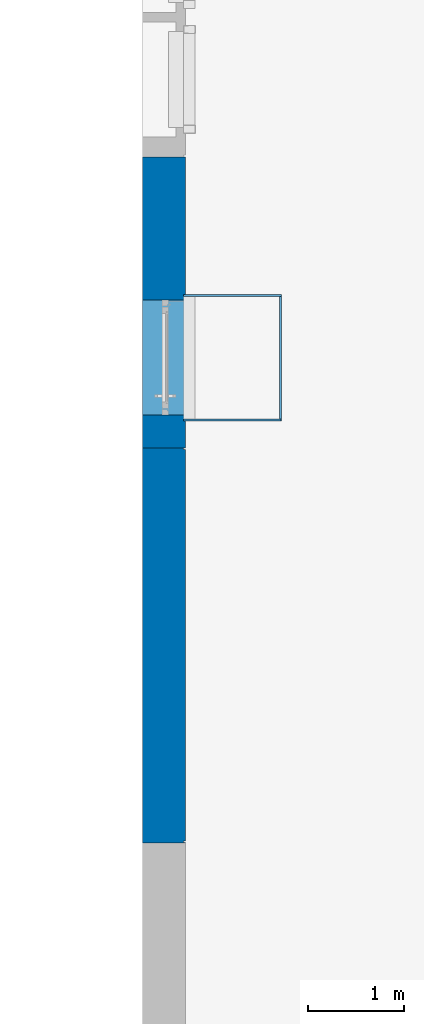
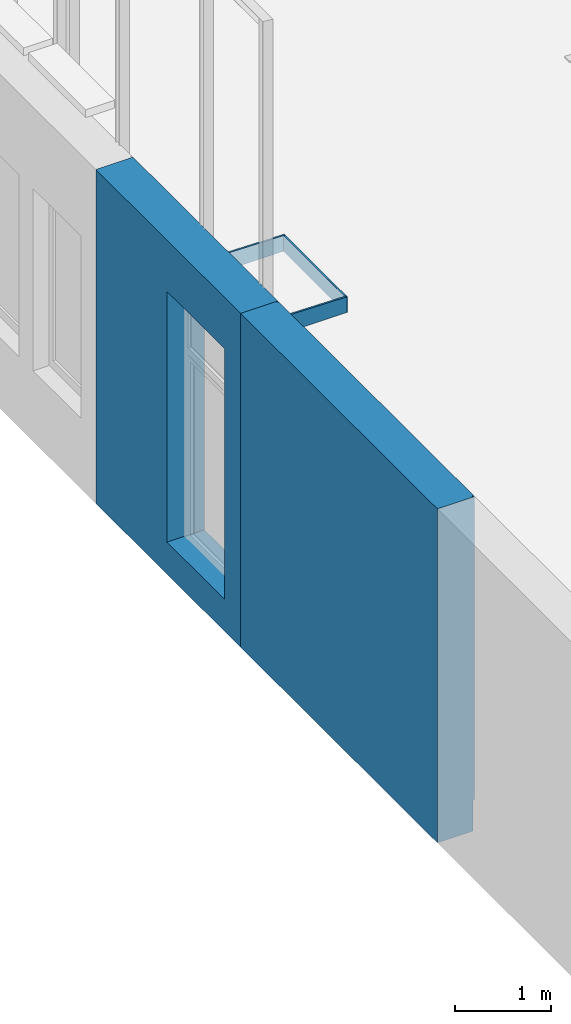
# One storey, part 31 of 77: 5 walls, 5 openings.
"""IFC2X3 building model written with IfcOpenShell, lengths in millimetres."""

from ifc_helpers import new_model, entity, si_unit, converted_unit, derived_unit, direction, frame, frame_2d, origin, origin_2d_with_axis, place, context, subcontext, project, spatial, rectangle, extrude, clip, halfspace, faceted_brep, material, layer, layer_set, layer_usage, type_object, element, save


model = new_model("IFC2X3")

# Units and contexts
model_context = context("Model", 3, precision=0.01, world=origin(), true_north=direction((6.12303176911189e-17, 1.0)))
body_context = subcontext(model_context, "Body", "Model", "MODEL_VIEW")
ifc_project = project(units=[si_unit("LENGTHUNIT", "METRE", prefix="MILLI"), si_unit("AREAUNIT", "SQUARE_METRE"), si_unit("VOLUMEUNIT", "CUBIC_METRE"), converted_unit("PLANEANGLEUNIT", "DEGREE", entity("IfcRatioMeasure", 0.0174532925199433), si_unit("PLANEANGLEUNIT", "RADIAN"), dimensions=[0, 0, 0, 0, 0, 0, 0]), si_unit("MASSUNIT", "GRAM", prefix="KILO"), derived_unit("MASSDENSITYUNIT", [(si_unit("MASSUNIT", "GRAM", prefix="KILO"), 1), (si_unit("LENGTHUNIT", "METRE"), -3)]), si_unit("TIMEUNIT", "SECOND"), si_unit("FREQUENCYUNIT", "HERTZ"), si_unit("THERMODYNAMICTEMPERATUREUNIT", "DEGREE_CELSIUS"), derived_unit("THERMALTRANSMITTANCEUNIT", [(si_unit("MASSUNIT", "GRAM", prefix="KILO"), 1), (si_unit("THERMODYNAMICTEMPERATUREUNIT", "KELVIN"), -1), (si_unit("TIMEUNIT", "SECOND"), -3)]), derived_unit("VOLUMETRICFLOWRATEUNIT", [(si_unit("LENGTHUNIT", "METRE"), 3), (si_unit("TIMEUNIT", "SECOND"), -1)]), si_unit("ELECTRICCURRENTUNIT", "AMPERE"), si_unit("ELECTRICVOLTAGEUNIT", "VOLT"), si_unit("POWERUNIT", "WATT"), si_unit("FORCEUNIT", "NEWTON", prefix="KILO"), si_unit("ILLUMINANCEUNIT", "LUX"), si_unit("LUMINOUSFLUXUNIT", "LUMEN"), si_unit("LUMINOUSINTENSITYUNIT", "CANDELA"), derived_unit("USERDEFINED", [(si_unit("MASSUNIT", "GRAM", prefix="KILO"), -1), (si_unit("LENGTHUNIT", "METRE"), -2), (si_unit("TIMEUNIT", "SECOND"), 3), (si_unit("LUMINOUSFLUXUNIT", "LUMEN"), 1)]), derived_unit("LINEARVELOCITYUNIT", [(si_unit("LENGTHUNIT", "METRE"), 1), (si_unit("TIMEUNIT", "SECOND"), -1)]), si_unit("PRESSUREUNIT", "PASCAL"), derived_unit("USERDEFINED", [(si_unit("LENGTHUNIT", "METRE"), -2), (si_unit("MASSUNIT", "GRAM", prefix="KILO"), 1), (si_unit("TIMEUNIT", "SECOND"), -2)])], contexts=[model_context])

# Site, building, storey
site_placement = place(None, origin())
site = spatial("IfcSite", under=ifc_project, at=site_placement, Name="Default", CompositionType="ELEMENT")
building_placement = place(site_placement, origin())
building = spatial("IfcBuilding", under=site, at=building_placement, CompositionType="ELEMENT")
storey_placement = place(building_placement, origin())
storey = spatial("IfcBuildingStorey", under=building, at=storey_placement, Name="1. KORRUS", CompositionType="ELEMENT", Elevation=0.0)

# Wall, openings
ifc_material_1 = material(Name="RECKLI 1 173 THUR by Polantis 2016-toon2")
ifc_layer_1 = layer(ifc_material_1, 100.0)
ifc_material_2 = material(Name="Soojusisolatsioon EPS")
ifc_layer_2 = layer(ifc_material_2, 200.0)
ifc_material_3 = material(Name="r/b")
ifc_layer_3 = layer(ifc_material_3, 150.0)
ifc_layer_set_1 = layer_set([ifc_layer_1, ifc_layer_2, ifc_layer_3], Name="Basic Wall:VS-1_toon-c")
ifc_layer_usage_1 = layer_usage(ifc_layer_set_1, "AXIS2", "NEGATIVE", 225.0)
wall_type_1 = type_object("IfcWallType", Name="Basic Wall:VS-1_toon-c", PredefinedType="STANDARD", material=ifc_layer_set_1)
wall_1_placement = place(storey_placement, frame((39725.0, 12760.0, -400.0), z_axis=(0.0, 0.0, 1.0), x_axis=(0.0, -1.0, 0.0)))
wall_1 = element("IfcWallStandardCase", 1, at=wall_1_placement, inside=storey, type_object=wall_type_1, material=ifc_layer_usage_1, Name="Basic Wall:VS-1_toon-c", ObjectType="Basic Wall:VS-1_toon-c", context=body_context, shape_type="SweptSolid", body=[
    extrude(rectangle(XDim=4116.66999999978, YDim=450.000000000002, at=frame_2d((2058.33499999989, -9.66338120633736e-13), x_axis=(-1.0, 0.0))), origin(), (0.0, 0.0, 1.0), 4265.0),
])
opening_1_placement = place(wall_1_placement, origin())
element("IfcOpeningElement", 2, at=opening_1_placement, cuts=wall_1, Name="Basic Wall:VS-1_toon-c", ObjectType="Opening", context=body_context, shape_type="Brep", body=[
    faceted_brep([(-15270.0, -40155.0, 400.0), (-15270.0, -40155.0, 0.0), (-15290.0, -40175.0, 0.0), (-15290.0, -40175.0, 400.0), (-10530.0, -40155.0, 400.0), (-10530.0, -40175.0, 400.0), (-10530.0, -40175.0, 0.0), (-10530.0, -40155.0, 0.0)], [[[0, 1, 2, 3]], [[4, 5, 6, 7]], [[1, 0, 4, 7]], [[2, 1, 7, 6]], [[3, 2, 6, 5]], [[0, 3, 5, 4]]]),
    faceted_brep([(-15270.0, -40155.0, 400.0), (-15290.0, -40175.0, 400.0), (-15290.0, -40175.0, 0.0), (-15270.0, -40155.0, 0.0), (-15270.0, -35815.0, 400.0), (-15270.0, -35815.0, 0.0), (-15290.0, -35815.0, 0.0), (-15290.0, -35815.0, 400.0)], [[[0, 1, 2, 3]], [[4, 5, 6, 7]], [[1, 0, 4, 7]], [[2, 1, 7, 6]], [[3, 2, 6, 5]], [[0, 3, 5, 4]]]),
    faceted_brep([(-15270.0, -30095.0, 400.0), (-15290.0, -30075.0, 400.0), (-15290.0, -30075.0, 0.0), (-15270.0, -30095.0, 0.0), (-9170.05178071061, -30095.0, 400.0), (-9170.05178071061, -30095.0, 0.0), (-9190.05178071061, -30075.0, 0.0), (-9190.05178071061, -30075.0, 400.0)], [[[0, 1, 2, 3]], [[4, 5, 6, 7]], [[1, 0, 4, 7]], [[2, 1, 7, 6]], [[3, 2, 6, 5]], [[0, 3, 5, 4]]]),
    faceted_brep([(-9170.0517807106, -25375.0, 400.0), (-9190.0517807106, -25375.0, 400.0), (-9190.0517807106, -25375.0, 0.0), (-9170.0517807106, -25375.0, 0.0), (-9170.0517807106, -24845.0, 400.0), (-9170.0517807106, -24845.0, 0.0), (-9190.0517807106, -24845.0, 0.0), (-9190.0517807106, -24845.0, 400.0)], [[[0, 1, 2, 3]], [[4, 5, 6, 7]], [[1, 0, 4, 7]], [[2, 1, 7, 6]], [[3, 2, 6, 5]], [[0, 3, 5, 4]]]),
    faceted_brep([(-9170.05178071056, 205.0, 400.0), (-9190.05178071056, 225.0, 400.0), (-9190.05178071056, 225.0, 0.0), (-9170.05178071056, 205.0, 0.0), (-3030.0, 205.0, 400.0), (-3030.0, 205.0, 0.0), (-3030.0, 225.0, 0.0), (-3030.0, 225.0, 400.0)], [[[0, 1, 2, 3]], [[4, 5, 6, 7]], [[1, 0, 4, 7]], [[2, 1, 7, 6]], [[3, 2, 6, 5]], [[0, 3, 5, 4]]]),
    faceted_brep([(13190.0, 205.0, 400.0), (13210.0, 225.0, 400.0), (13210.0, 225.0, 0.0), (13190.0, 205.0, 0.0), (13190.0, -4925.0, 400.0), (13190.0, -4925.0, 0.0), (13210.0, -4925.0, 0.0), (13210.0, -4925.0, 400.0)], [[[0, 1, 2, 3]], [[4, 5, 6, 7]], [[1, 0, 4, 7]], [[2, 1, 7, 6]], [[3, 2, 6, 5]], [[0, 3, 5, 4]]]),
    faceted_brep([(13190.0, -28325.0, 400.0), (13210.0, -28325.0, 400.0), (13210.0, -28325.0, 0.0), (13190.0, -28325.0, 0.0), (13190.0, -32110.0, 400.0), (13190.0, -32110.0, 0.0), (13210.0, -32110.0, 0.0), (13210.0, -32110.0, 400.0)], [[[0, 1, 2, 3]], [[4, 5, 6, 7]], [[1, 0, 4, 7]], [[2, 1, 7, 6]], [[3, 2, 6, 5]], [[0, 3, 5, 4]]]),
    faceted_brep([(2.66818460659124e-09, 205.0, 400.0), (2.66818460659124e-09, 225.0, 400.0), (2.66818460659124e-09, 225.0, 0.0), (2.66818460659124e-09, 205.0, 0.0), (4116.66999999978, 205.0, 400.0), (4116.66999999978, 205.0, 0.0), (4116.66999999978, 225.0, 0.0), (4116.66999999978, 225.0, 400.0)], [[[0, 1, 2, 3]], [[4, 5, 6, 7]], [[1, 0, 4, 7]], [[2, 1, 7, 6]], [[3, 2, 6, 5]], [[0, 3, 5, 4]]]),
    faceted_brep([(13190.0, -8525.0, 400.0), (13210.0, -8525.0, 400.0), (13210.0, -8525.0, 0.0), (13190.0, -8525.0, 0.0), (13190.0, -10925.0, 400.0), (13190.0, -10925.0, 0.0), (13210.0, -10925.0, 0.0), (13210.0, -10925.0, 400.0)], [[[0, 1, 2, 3]], [[4, 5, 6, 7]], [[1, 0, 4, 7]], [[2, 1, 7, 6]], [[3, 2, 6, 5]], [[0, 3, 5, 4]]]),
    faceted_brep([(13190.0, -35934.969176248, 400.0), (13210.0, -35934.969176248, 400.0), (13210.0, -35934.969176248, 0.0), (13190.0, -35934.969176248, 0.0), (13190.0, -38419.969176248, 400.0), (13190.0, -38419.969176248, 0.0), (13210.0, -38419.969176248, 0.0), (13210.0, -38419.969176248, 400.0)], [[[0, 1, 2, 3]], [[4, 5, 6, 7]], [[1, 0, 4, 7]], [[2, 1, 7, 6]], [[3, 2, 6, 5]], [[0, 3, 5, 4]]]),
    faceted_brep([(13190.0, -23725.0, 400.0), (13210.0, -23725.0, 400.0), (13210.0, -23725.0, 0.0), (13190.0, -23725.0, 0.0), (13190.0, -24725.0, 400.0), (13190.0, -24725.0, 0.0), (13210.0, -24725.0, 0.0), (13210.0, -24725.0, 400.0)], [[[0, 1, 2, 3]], [[4, 5, 6, 7]], [[1, 0, 4, 7]], [[2, 1, 7, 6]], [[3, 2, 6, 5]], [[0, 3, 5, 4]]]),
    faceted_brep([(13190.0, -19124.9683370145, 400.0), (13210.0, -19124.9683370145, 400.0), (13210.0, -19124.9683370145, 0.0), (13190.0, -19124.9683370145, 0.0), (13190.0, -20125.0, 400.0), (13190.0, -20125.0, 0.0), (13210.0, -20125.0, 0.0), (13210.0, -20125.0, 400.0)], [[[0, 1, 2, 3]], [[4, 5, 6, 7]], [[1, 0, 4, 7]], [[2, 1, 7, 6]], [[3, 2, 6, 5]], [[0, 3, 5, 4]]]),
    faceted_brep([(13190.0, -14524.9683370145, 400.0), (13210.0, -14524.9683370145, 400.0), (13210.0, -14524.9683370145, 0.0), (13190.0, -14524.9683370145, 0.0), (13190.0, -15525.0, 400.0), (13190.0, -15525.0, 0.0), (13210.0, -15525.0, 0.0), (13210.0, -15525.0, 400.0)], [[[0, 1, 2, 3]], [[4, 5, 6, 7]], [[1, 0, 4, 7]], [[2, 1, 7, 6]], [[3, 2, 6, 5]], [[0, 3, 5, 4]]]),
    faceted_brep([(8345.0, 205.0, 400.0), (8345.0, 225.0, 400.0), (8345.0, 225.0, 0.0), (8345.0, 205.0, 0.0), (13190.0, 205.0, 400.0), (13190.0, 205.0, 0.0), (13210.0, 225.0, 0.0), (13210.0, 225.0, 400.0)], [[[0, 1, 2, 3]], [[4, 5, 6, 7]], [[1, 0, 4, 7]], [[2, 1, 7, 6]], [[3, 2, 6, 5]], [[0, 3, 5, 4]]]),
    faceted_brep([(4116.66999999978, 205.0, 400.0), (4116.66999999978, 225.0, 400.0), (4116.66999999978, 225.0, 0.0), (4116.66999999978, 205.0, 0.0), (8345.0, 205.0, 400.0), (8345.0, 205.0, 0.0), (8345.0, 225.0, 0.0), (8345.0, 225.0, 400.0)], [[[0, 1, 2, 3]], [[4, 5, 6, 7]], [[1, 0, 4, 7]], [[2, 1, 7, 6]], [[3, 2, 6, 5]], [[0, 3, 5, 4]]]),
    faceted_brep([(-3030.0, 205.0, 400.0), (-3030.0, 225.0, 400.0), (-3030.0, 225.0, 0.0), (-3030.0, 205.0, 0.0), (2.66818460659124e-09, 205.0, 400.0), (2.66818460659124e-09, 205.0, 0.0), (2.66818460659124e-09, 225.0, 0.0), (2.66818460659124e-09, 225.0, 400.0)], [[[0, 1, 2, 3]], [[4, 5, 6, 7]], [[1, 0, 4, 7]], [[2, 1, 7, 6]], [[3, 2, 6, 5]], [[0, 3, 5, 4]]]),
    faceted_brep([(-9170.05178071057, -5754.89642978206, 400.0), (-9190.05178071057, -5754.89642978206, 400.0), (-9190.05178071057, -5754.89642978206, 0.0), (-9170.05178071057, -5754.89642978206, 0.0), (-9170.05178071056, 205.0, 400.0), (-9170.05178071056, 205.0, 0.0), (-9190.05178071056, 225.0, 0.0), (-9190.05178071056, 225.0, 400.0)], [[[0, 1, 2, 3]], [[4, 5, 6, 7]], [[1, 0, 4, 7]], [[2, 1, 7, 6]], [[3, 2, 6, 5]], [[0, 3, 5, 4]]]),
    faceted_brep([(-9170.05178071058, -11061.7838512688, 400.0), (-9190.05178071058, -11061.7838512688, 400.0), (-9190.05178071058, -11061.7838512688, 0.0), (-9170.05178071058, -11061.7838512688, 0.0), (-9170.05178071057, -5754.89642978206, 400.0), (-9170.05178071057, -5754.89642978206, 0.0), (-9190.05178071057, -5754.89642978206, 0.0), (-9190.05178071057, -5754.89642978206, 400.0)], [[[0, 1, 2, 3]], [[4, 5, 6, 7]], [[1, 0, 4, 7]], [[2, 1, 7, 6]], [[3, 2, 6, 5]], [[0, 3, 5, 4]]]),
    faceted_brep([(13190.0, -32110.0, 400.0), (13210.0, -32110.0, 400.0), (13210.0, -32110.0, 0.0), (13190.0, -32110.0, 0.0), (13190.0, -35934.969176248, 400.0), (13190.0, -35934.969176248, 0.0), (13210.0, -35934.969176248, 0.0), (13210.0, -35934.969176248, 400.0)], [[[0, 1, 2, 3]], [[4, 5, 6, 7]], [[1, 0, 4, 7]], [[2, 1, 7, 6]], [[3, 2, 6, 5]], [[0, 3, 5, 4]]]),
    faceted_brep([(-9170.05178071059, -17640.0, 400.0), (-9190.05178071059, -17640.0, 400.0), (-9190.05178071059, -17640.0, 0.0), (-9170.05178071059, -17640.0, 0.0), (-9170.05178071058, -11061.7838512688, 400.0), (-9170.05178071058, -11061.7838512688, 0.0), (-9190.05178071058, -11061.7838512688, 0.0), (-9190.05178071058, -11061.7838512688, 400.0)], [[[0, 1, 2, 3]], [[4, 5, 6, 7]], [[1, 0, 4, 7]], [[2, 1, 7, 6]], [[3, 2, 6, 5]], [[0, 3, 5, 4]]]),
    faceted_brep([(-9170.0517807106, -21471.6471089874, 400.0), (-9190.0517807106, -21471.6471089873, 400.0), (-9190.0517807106, -21471.6471089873, 0.0), (-9170.0517807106, -21471.6471089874, 0.0), (-9170.05178071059, -17640.0, 400.0), (-9170.05178071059, -17640.0, 0.0), (-9190.05178071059, -17640.0, 0.0), (-9190.05178071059, -17640.0, 400.0)], [[[0, 1, 2, 3]], [[4, 5, 6, 7]], [[1, 0, 4, 7]], [[2, 1, 7, 6]], [[3, 2, 6, 5]], [[0, 3, 5, 4]]]),
    faceted_brep([(-9170.0517807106, -24845.0, 400.0), (-9190.0517807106, -24845.0, 400.0), (-9190.0517807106, -24845.0, 0.0), (-9170.0517807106, -24845.0, 0.0), (-9170.0517807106, -21471.6471089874, 400.0), (-9170.0517807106, -21471.6471089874, 0.0), (-9190.0517807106, -21471.6471089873, 0.0), (-9190.0517807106, -21471.6471089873, 400.0)], [[[0, 1, 2, 3]], [[4, 5, 6, 7]], [[1, 0, 4, 7]], [[2, 1, 7, 6]], [[3, 2, 6, 5]], [[0, 3, 5, 4]]]),
    faceted_brep([(-15270.0, -35815.0, 400.0), (-15290.0, -35815.0, 400.0), (-15290.0, -35815.0, 0.0), (-15270.0, -35815.0, 0.0), (-15270.0, -30095.0, 400.0), (-15270.0, -30095.0, 0.0), (-15290.0, -30075.0, 0.0), (-15290.0, -30075.0, 400.0)], [[[0, 1, 2, 3]], [[4, 5, 6, 7]], [[1, 0, 4, 7]], [[2, 1, 7, 6]], [[3, 2, 6, 5]], [[0, 3, 5, 4]]]),
    faceted_brep([(-10530.0, -40155.0, 400.0), (-10530.0, -40155.0, 0.0), (-10530.0, -40175.0, 0.0), (-10530.0, -40175.0, 400.0), (-4980.00069723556, -40155.0, 400.0), (-4980.00069723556, -40175.0, 400.0), (-4980.00069723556, -40175.0, 0.0), (-4980.00069723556, -40155.0, 0.0)], [[[0, 1, 2, 3]], [[4, 5, 6, 7]], [[1, 0, 4, 7]], [[2, 1, 7, 6]], [[3, 2, 6, 5]], [[0, 3, 5, 4]]]),
    faceted_brep([(-4980.00069723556, -40155.0, 400.0), (-4980.00069723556, -40155.0, 0.0), (-4980.00069723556, -40175.0, 0.0), (-4980.00069723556, -40175.0, 400.0), (-40.0, -40155.0, 400.0), (-40.0, -40175.0, 400.0), (-40.0, -40175.0, 0.0), (-40.0, -40155.0, 0.0)], [[[0, 1, 2, 3]], [[4, 5, 6, 7]], [[1, 0, 4, 7]], [[2, 1, 7, 6]], [[3, 2, 6, 5]], [[0, 3, 5, 4]]]),
    faceted_brep([(-9170.05178071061, -30095.0, 400.0), (-9190.05178071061, -30075.0, 400.0), (-9190.05178071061, -30075.0, 0.0), (-9170.05178071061, -30095.0, 0.0), (-9170.05178071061, -28975.0, 400.0), (-9170.05178071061, -28975.0, 0.0), (-9190.05178071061, -28975.0, 0.0), (-9190.05178071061, -28975.0, 400.0)], [[[0, 1, 2, 3]], [[4, 5, 6, 7]], [[1, 0, 4, 7]], [[2, 1, 7, 6]], [[3, 2, 6, 5]], [[0, 3, 5, 4]]]),
])
opening_2_placement = place(wall_1_placement, origin())
element("IfcOpeningElement", 3, at=opening_2_placement, cuts=wall_1, Name="Basic Wall:VS-1_toon-c", ObjectType="Recess", context=body_context, shape_type="SweptSolid", body=[
    extrude(rectangle(XDim=4265.0, YDim=16.0000000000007, at=origin_2d_with_axis()), frame((8.00000002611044, 205.0, 2132.49999999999), z_axis=(0.0, 1.0, 0.0), x_axis=(0.0, 0.0, 1.0)), (0.0, 0.0, 1.0), 20.0000000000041),
    extrude(rectangle(XDim=4835.0, YDim=16.0000000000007, at=frame_2d((8.18545231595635e-12, -1.08268949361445e-12), x_axis=(1.0, 0.0))), frame((8.00000002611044, 205.0, 6682.5), z_axis=(0.0, 1.0, 0.0), x_axis=(0.0, 0.0, 1.0)), (0.0, 0.0, 1.0), 20.0000000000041),
])
opening_3_placement = place(wall_1_placement, origin())
element("IfcOpeningElement", 4, at=opening_3_placement, cuts=wall_1, Name="Basic Wall:VS-1_toon-c", ObjectType="Recess", context=body_context, shape_type="SweptSolid", body=[
    extrude(rectangle(XDim=4265.0, YDim=15.9999999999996, at=frame_2d((0.0, 5.40900657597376e-13), x_axis=(1.0, 0.0))), frame((4104.66999999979, 205.0, 2132.5), z_axis=(0.0, 1.0, 0.0), x_axis=(0.0, 0.0, 1.0)), (0.0, 0.0, 1.0), 20.0000000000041),
    extrude(rectangle(XDim=4835.0, YDim=15.9999999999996, at=frame_2d((0.0, -5.40900657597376e-13), x_axis=(1.0, 0.0))), frame((4104.66999999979, 205.0, 6682.5), z_axis=(0.0, 1.0, 0.0), x_axis=(0.0, 0.0, 1.0)), (0.0, 0.0, 1.0), 20.0000000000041),
])

ifc_layer_usage_2 = layer_usage(ifc_layer_set_1, "AXIS2", "NEGATIVE", 225.0)
wall_2_placement = place(storey_placement, frame((39725.0, 15790.0, -400.0), z_axis=(0.0, 0.0, 1.0), x_axis=(0.0, -1.0, 0.0)))
wall_2 = element("IfcWallStandardCase", 5, at=wall_2_placement, inside=storey, type_object=wall_type_1, material=ifc_layer_usage_2, Name="Basic Wall:VS-1_toon-c", ObjectType="Basic Wall:VS-1_toon-c", context=body_context, shape_type="SweptSolid", body=[
    extrude(rectangle(XDim=3030.00000002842, YDim=450.000000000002, at=frame_2d((1515.00000001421, -1.86162196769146e-12), x_axis=(-1.0, 0.0))), origin(), (0.0, 0.0, 1.0), 4265.0),
])
opening_4_placement = place(wall_2_placement, origin())
element("IfcOpeningElement", 6, at=opening_4_placement, cuts=wall_2, Name="Basic Wall:VS-1_toon-c", ObjectType="Opening", context=body_context, shape_type="Brep", body=[
    faceted_brep([(-12240.0, -40155.0, 400.0), (-12240.0, -40155.0, 0.0), (-12260.0, -40175.0, 0.0), (-12260.0, -40175.0, 400.0), (-7500.0, -40155.0, 400.0), (-7500.0, -40175.0, 400.0), (-7500.0, -40175.0, 0.0), (-7500.0, -40155.0, 0.0)], [[[0, 1, 2, 3]], [[4, 5, 6, 7]], [[1, 0, 4, 7]], [[2, 1, 7, 6]], [[3, 2, 6, 5]], [[0, 3, 5, 4]]]),
    faceted_brep([(-12240.0, -40155.0, 400.0), (-12260.0, -40175.0, 400.0), (-12260.0, -40175.0, 0.0), (-12240.0, -40155.0, 0.0), (-12240.0, -35815.0, 400.0), (-12240.0, -35815.0, 0.0), (-12260.0, -35815.0, 0.0), (-12260.0, -35815.0, 400.0)], [[[0, 1, 2, 3]], [[4, 5, 6, 7]], [[1, 0, 4, 7]], [[2, 1, 7, 6]], [[3, 2, 6, 5]], [[0, 3, 5, 4]]]),
    faceted_brep([(-12240.0, -30095.0, 400.0), (-12260.0, -30075.0, 400.0), (-12260.0, -30075.0, 0.0), (-12240.0, -30095.0, 0.0), (-6140.05178071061, -30095.0, 400.0), (-6140.05178071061, -30095.0, 0.0), (-6160.05178071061, -30075.0, 0.0), (-6160.05178071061, -30075.0, 400.0)], [[[0, 1, 2, 3]], [[4, 5, 6, 7]], [[1, 0, 4, 7]], [[2, 1, 7, 6]], [[3, 2, 6, 5]], [[0, 3, 5, 4]]]),
    faceted_brep([(-6140.0517807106, -25375.0, 400.0), (-6160.0517807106, -25375.0, 400.0), (-6160.0517807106, -25375.0, 0.0), (-6140.0517807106, -25375.0, 0.0), (-6140.0517807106, -24845.0, 400.0), (-6140.0517807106, -24845.0, 0.0), (-6160.0517807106, -24845.0, 0.0), (-6160.0517807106, -24845.0, 400.0)], [[[0, 1, 2, 3]], [[4, 5, 6, 7]], [[1, 0, 4, 7]], [[2, 1, 7, 6]], [[3, 2, 6, 5]], [[0, 3, 5, 4]]]),
    faceted_brep([(-6140.05178071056, 205.0, 400.0), (-6160.05178071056, 225.0, 400.0), (-6160.05178071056, 225.0, 0.0), (-6140.05178071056, 205.0, 0.0), (0.0, 205.0, 400.0), (0.0, 205.0, 0.0), (0.0, 225.0, 0.0), (0.0, 225.0, 400.0)], [[[0, 1, 2, 3]], [[4, 5, 6, 7]], [[1, 0, 4, 7]], [[2, 1, 7, 6]], [[3, 2, 6, 5]], [[0, 3, 5, 4]]]),
    faceted_brep([(16220.0, 205.0, 400.0), (16240.0, 225.0, 400.0), (16240.0, 225.0, 0.0), (16220.0, 205.0, 0.0), (16220.0, -4925.0, 400.0), (16220.0, -4925.0, 0.0), (16240.0, -4925.0, 0.0), (16240.0, -4925.0, 400.0)], [[[0, 1, 2, 3]], [[4, 5, 6, 7]], [[1, 0, 4, 7]], [[2, 1, 7, 6]], [[3, 2, 6, 5]], [[0, 3, 5, 4]]]),
    faceted_brep([(16220.0, -28325.0, 400.0), (16240.0, -28325.0, 400.0), (16240.0, -28325.0, 0.0), (16220.0, -28325.0, 0.0), (16220.0, -32110.0, 400.0), (16220.0, -32110.0, 0.0), (16240.0, -32110.0, 0.0), (16240.0, -32110.0, 400.0)], [[[0, 1, 2, 3]], [[4, 5, 6, 7]], [[1, 0, 4, 7]], [[2, 1, 7, 6]], [[3, 2, 6, 5]], [[0, 3, 5, 4]]]),
    faceted_brep([(3030.0, 205.0, 400.0), (3030.0, 225.0, 400.0), (3030.0, 225.0, 0.0), (3030.0, 205.0, 0.0), (7146.66999999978, 205.0, 400.0), (7146.66999999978, 205.0, 0.0), (7146.66999999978, 225.0, 0.0), (7146.66999999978, 225.0, 400.0)], [[[0, 1, 2, 3]], [[4, 5, 6, 7]], [[1, 0, 4, 7]], [[2, 1, 7, 6]], [[3, 2, 6, 5]], [[0, 3, 5, 4]]]),
    faceted_brep([(16220.0, -8525.0, 400.0), (16240.0, -8525.0, 400.0), (16240.0, -8525.0, 0.0), (16220.0, -8525.0, 0.0), (16220.0, -10925.0, 400.0), (16220.0, -10925.0, 0.0), (16240.0, -10925.0, 0.0), (16240.0, -10925.0, 400.0)], [[[0, 1, 2, 3]], [[4, 5, 6, 7]], [[1, 0, 4, 7]], [[2, 1, 7, 6]], [[3, 2, 6, 5]], [[0, 3, 5, 4]]]),
    faceted_brep([(16220.0, -35934.969176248, 400.0), (16240.0, -35934.969176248, 400.0), (16240.0, -35934.969176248, 0.0), (16220.0, -35934.969176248, 0.0), (16220.0, -38419.969176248, 400.0), (16220.0, -38419.969176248, 0.0), (16240.0, -38419.969176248, 0.0), (16240.0, -38419.969176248, 400.0)], [[[0, 1, 2, 3]], [[4, 5, 6, 7]], [[1, 0, 4, 7]], [[2, 1, 7, 6]], [[3, 2, 6, 5]], [[0, 3, 5, 4]]]),
    faceted_brep([(16220.0, -23725.0, 400.0), (16240.0, -23725.0, 400.0), (16240.0, -23725.0, 0.0), (16220.0, -23725.0, 0.0), (16220.0, -24725.0, 400.0), (16220.0, -24725.0, 0.0), (16240.0, -24725.0, 0.0), (16240.0, -24725.0, 400.0)], [[[0, 1, 2, 3]], [[4, 5, 6, 7]], [[1, 0, 4, 7]], [[2, 1, 7, 6]], [[3, 2, 6, 5]], [[0, 3, 5, 4]]]),
    faceted_brep([(16220.0, -19124.9683370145, 400.0), (16240.0, -19124.9683370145, 400.0), (16240.0, -19124.9683370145, 0.0), (16220.0, -19124.9683370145, 0.0), (16220.0, -20125.0, 400.0), (16220.0, -20125.0, 0.0), (16240.0, -20125.0, 0.0), (16240.0, -20125.0, 400.0)], [[[0, 1, 2, 3]], [[4, 5, 6, 7]], [[1, 0, 4, 7]], [[2, 1, 7, 6]], [[3, 2, 6, 5]], [[0, 3, 5, 4]]]),
    faceted_brep([(16220.0, -14524.9683370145, 400.0), (16240.0, -14524.9683370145, 400.0), (16240.0, -14524.9683370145, 0.0), (16220.0, -14524.9683370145, 0.0), (16220.0, -15525.0, 400.0), (16220.0, -15525.0, 0.0), (16240.0, -15525.0, 0.0), (16240.0, -15525.0, 400.0)], [[[0, 1, 2, 3]], [[4, 5, 6, 7]], [[1, 0, 4, 7]], [[2, 1, 7, 6]], [[3, 2, 6, 5]], [[0, 3, 5, 4]]]),
    faceted_brep([(11375.0, 205.0, 400.0), (11375.0, 225.0, 400.0), (11375.0, 225.0, 0.0), (11375.0, 205.0, 0.0), (16220.0, 205.0, 400.0), (16220.0, 205.0, 0.0), (16240.0, 225.0, 0.0), (16240.0, 225.0, 400.0)], [[[0, 1, 2, 3]], [[4, 5, 6, 7]], [[1, 0, 4, 7]], [[2, 1, 7, 6]], [[3, 2, 6, 5]], [[0, 3, 5, 4]]]),
    faceted_brep([(7146.66999999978, 205.0, 400.0), (7146.66999999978, 225.0, 400.0), (7146.66999999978, 225.0, 0.0), (7146.66999999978, 205.0, 0.0), (11375.0, 205.0, 400.0), (11375.0, 205.0, 0.0), (11375.0, 225.0, 0.0), (11375.0, 225.0, 400.0)], [[[0, 1, 2, 3]], [[4, 5, 6, 7]], [[1, 0, 4, 7]], [[2, 1, 7, 6]], [[3, 2, 6, 5]], [[0, 3, 5, 4]]]),
    faceted_brep([(0.0, 205.0, 400.0), (0.0, 225.0, 400.0), (0.0, 225.0, 0.0), (0.0, 205.0, 0.0), (3030.0, 205.0, 400.0), (3030.0, 205.0, 0.0), (3030.0, 225.0, 0.0), (3030.0, 225.0, 400.0)], [[[0, 1, 2, 3]], [[4, 5, 6, 7]], [[1, 0, 4, 7]], [[2, 1, 7, 6]], [[3, 2, 6, 5]], [[0, 3, 5, 4]]]),
    faceted_brep([(-6140.05178071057, -5754.89642978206, 400.0), (-6160.05178071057, -5754.89642978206, 400.0), (-6160.05178071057, -5754.89642978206, 0.0), (-6140.05178071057, -5754.89642978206, 0.0), (-6140.05178071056, 205.0, 400.0), (-6140.05178071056, 205.0, 0.0), (-6160.05178071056, 225.0, 0.0), (-6160.05178071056, 225.0, 400.0)], [[[0, 1, 2, 3]], [[4, 5, 6, 7]], [[1, 0, 4, 7]], [[2, 1, 7, 6]], [[3, 2, 6, 5]], [[0, 3, 5, 4]]]),
    faceted_brep([(-6140.05178071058, -11061.7838512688, 400.0), (-6160.05178071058, -11061.7838512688, 400.0), (-6160.05178071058, -11061.7838512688, 0.0), (-6140.05178071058, -11061.7838512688, 0.0), (-6140.05178071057, -5754.89642978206, 400.0), (-6140.05178071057, -5754.89642978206, 0.0), (-6160.05178071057, -5754.89642978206, 0.0), (-6160.05178071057, -5754.89642978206, 400.0)], [[[0, 1, 2, 3]], [[4, 5, 6, 7]], [[1, 0, 4, 7]], [[2, 1, 7, 6]], [[3, 2, 6, 5]], [[0, 3, 5, 4]]]),
    faceted_brep([(16220.0, -32110.0, 400.0), (16240.0, -32110.0, 400.0), (16240.0, -32110.0, 0.0), (16220.0, -32110.0, 0.0), (16220.0, -35934.969176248, 400.0), (16220.0, -35934.969176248, 0.0), (16240.0, -35934.969176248, 0.0), (16240.0, -35934.969176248, 400.0)], [[[0, 1, 2, 3]], [[4, 5, 6, 7]], [[1, 0, 4, 7]], [[2, 1, 7, 6]], [[3, 2, 6, 5]], [[0, 3, 5, 4]]]),
    faceted_brep([(-6140.05178071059, -17640.0, 400.0), (-6160.05178071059, -17640.0, 400.0), (-6160.05178071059, -17640.0, 0.0), (-6140.05178071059, -17640.0, 0.0), (-6140.05178071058, -11061.7838512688, 400.0), (-6140.05178071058, -11061.7838512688, 0.0), (-6160.05178071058, -11061.7838512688, 0.0), (-6160.05178071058, -11061.7838512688, 400.0)], [[[0, 1, 2, 3]], [[4, 5, 6, 7]], [[1, 0, 4, 7]], [[2, 1, 7, 6]], [[3, 2, 6, 5]], [[0, 3, 5, 4]]]),
    faceted_brep([(-6140.0517807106, -21471.6471089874, 400.0), (-6160.0517807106, -21471.6471089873, 400.0), (-6160.0517807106, -21471.6471089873, 0.0), (-6140.0517807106, -21471.6471089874, 0.0), (-6140.05178071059, -17640.0, 400.0), (-6140.05178071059, -17640.0, 0.0), (-6160.05178071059, -17640.0, 0.0), (-6160.05178071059, -17640.0, 400.0)], [[[0, 1, 2, 3]], [[4, 5, 6, 7]], [[1, 0, 4, 7]], [[2, 1, 7, 6]], [[3, 2, 6, 5]], [[0, 3, 5, 4]]]),
    faceted_brep([(-6140.0517807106, -24845.0, 400.0), (-6160.0517807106, -24845.0, 400.0), (-6160.0517807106, -24845.0, 0.0), (-6140.0517807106, -24845.0, 0.0), (-6140.0517807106, -21471.6471089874, 400.0), (-6140.0517807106, -21471.6471089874, 0.0), (-6160.0517807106, -21471.6471089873, 0.0), (-6160.0517807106, -21471.6471089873, 400.0)], [[[0, 1, 2, 3]], [[4, 5, 6, 7]], [[1, 0, 4, 7]], [[2, 1, 7, 6]], [[3, 2, 6, 5]], [[0, 3, 5, 4]]]),
    faceted_brep([(-12240.0, -35815.0, 400.0), (-12260.0, -35815.0, 400.0), (-12260.0, -35815.0, 0.0), (-12240.0, -35815.0, 0.0), (-12240.0, -30095.0, 400.0), (-12240.0, -30095.0, 0.0), (-12260.0, -30075.0, 0.0), (-12260.0, -30075.0, 400.0)], [[[0, 1, 2, 3]], [[4, 5, 6, 7]], [[1, 0, 4, 7]], [[2, 1, 7, 6]], [[3, 2, 6, 5]], [[0, 3, 5, 4]]]),
    faceted_brep([(-7500.0, -40155.0, 400.0), (-7500.0, -40155.0, 0.0), (-7500.0, -40175.0, 0.0), (-7500.0, -40175.0, 400.0), (-1950.00069723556, -40155.0, 400.0), (-1950.00069723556, -40175.0, 400.0), (-1950.00069723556, -40175.0, 0.0), (-1950.00069723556, -40155.0, 0.0)], [[[0, 1, 2, 3]], [[4, 5, 6, 7]], [[1, 0, 4, 7]], [[2, 1, 7, 6]], [[3, 2, 6, 5]], [[0, 3, 5, 4]]]),
    faceted_brep([(-1950.00069723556, -40155.0, 400.0), (-1950.00069723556, -40155.0, 0.0), (-1950.00069723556, -40175.0, 0.0), (-1950.00069723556, -40175.0, 400.0), (2990.0, -40155.0, 400.0), (2990.0, -40175.0, 400.0), (2990.0, -40175.0, 0.0), (2990.0, -40155.0, 0.0)], [[[0, 1, 2, 3]], [[4, 5, 6, 7]], [[1, 0, 4, 7]], [[2, 1, 7, 6]], [[3, 2, 6, 5]], [[0, 3, 5, 4]]]),
    faceted_brep([(-6140.05178071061, -30095.0, 400.0), (-6160.05178071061, -30075.0, 400.0), (-6160.05178071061, -30075.0, 0.0), (-6140.05178071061, -30095.0, 0.0), (-6140.05178071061, -28975.0, 400.0), (-6140.05178071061, -28975.0, 0.0), (-6160.05178071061, -28975.0, 0.0), (-6160.05178071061, -28975.0, 400.0)], [[[0, 1, 2, 3]], [[4, 5, 6, 7]], [[1, 0, 4, 7]], [[2, 1, 7, 6]], [[3, 2, 6, 5]], [[0, 3, 5, 4]]]),
])
opening_5_placement = place(wall_2_placement, frame((1490.0, -225.0, 410.0)))
element("IfcOpeningElement", 7, at=opening_5_placement, cuts=wall_2, Name="Door_klaas-alumiinium-1p-ylaframuug:VU12-2_1200x3200:1", ObjectType="Opening", context=body_context, shape_type="SweptSolid", body=[
    extrude(rectangle(XDim=3200.00000000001, YDim=1199.99999999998, at=frame_2d((1600.00000000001, 599.999999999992), x_axis=(-1.0, 0.0))), frame((0.0, 0.0, 0.0), z_axis=(0.0, 1.0, 0.0), x_axis=(0.0, 0.0, 1.0)), (0.0, 0.0, 1.0), 450.0),
])

# Walls
ifc_material_4 = material(Name="Must-al-komposiitplaat")
ifc_layer_4 = layer(ifc_material_4, 4.0)
ifc_material_5 = material(Name="Õhkvahe- hor roovid")
ifc_layer_5 = layer(ifc_material_5, 18.0)
ifc_layer_set_2 = layer_set([ifc_layer_4, ifc_layer_5], Name="Basic Wall:varikatuse serv20+4")
ifc_layer_usage_3 = layer_usage(ifc_layer_set_2, "AXIS2", "NEGATIVE", 11.0)
wall_type_2 = type_object("IfcWallType", Name="Basic Wall:varikatuse serv20+4", PredefinedType="STANDARD", material=ifc_layer_set_2)
wall_3_placement = place(storey_placement, frame((39930.0, 14349.0, 3200.0)))
element("IfcWallStandardCase", 8, at=wall_3_placement, inside=storey, type_object=wall_type_2, material=ifc_layer_usage_3, Name="Basic Wall:varikatuse serv20+4", ObjectType="Basic Wall:varikatuse serv20+4", context=body_context, shape_type="Clipping", body=[
    clip(extrude(rectangle(XDim=1020.00000000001, YDim=21.9999999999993, at=frame_2d((510.000000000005, 4.35207425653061e-14), x_axis=(-1.0, 0.0))), origin(), (0.0, 0.0, 1.0), 216.830879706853), halfspace(frame((0.0, -11.0, 216.830879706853), z_axis=(0.0165798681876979, 0.0, 0.999862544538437), x_axis=(0.0, 1.0, 0.0)), False)),
])
ifc_layer_usage_4 = layer_usage(ifc_layer_set_2, "AXIS2", "NEGATIVE", 11.0)
wall_4_placement = place(storey_placement, frame((40939.0, 14338.0, 3200.0), z_axis=(0.0, 0.0, 1.0), x_axis=(0.0, -1.0, 0.0)))
element("IfcWallStandardCase", 9, at=wall_4_placement, inside=storey, type_object=wall_type_2, material=ifc_layer_usage_4, Name="Basic Wall:varikatuse serv20+4", ObjectType="Basic Wall:varikatuse serv20+4", context=body_context, shape_type="SweptSolid", body=[
    extrude(rectangle(XDim=1298.0, YDim=21.999999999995, at=frame_2d((649.0, 1.16884280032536e-12), x_axis=(-1.0, 0.0))), origin(), (0.0, 0.0, 1.0), 200.0),
])
ifc_layer_usage_5 = layer_usage(ifc_layer_set_2, "AXIS2", "POSITIVE", -11.0)
wall_5_placement = place(storey_placement, frame((39930.0, 13051.0, 3200.0)))
element("IfcWallStandardCase", 10, at=wall_5_placement, inside=storey, type_object=wall_type_2, material=ifc_layer_usage_5, Name="Basic Wall:varikatuse serv20+4", ObjectType="Basic Wall:varikatuse serv20+4", context=body_context, shape_type="Clipping", body=[
    clip(extrude(rectangle(XDim=1016.00000000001, YDim=21.9999999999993, at=frame_2d((508.000000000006, 4.85833595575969e-13), x_axis=(-1.0, 0.0))), origin(), (0.0, 0.0, 1.0), 216.830879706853), halfspace(frame((0.0, -11.0, 216.830879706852), z_axis=(0.0165798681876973, 0.0, 0.999862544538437), x_axis=(0.0, 1.0, 0.0)), False)),
])

save(model, "model.ifc")
